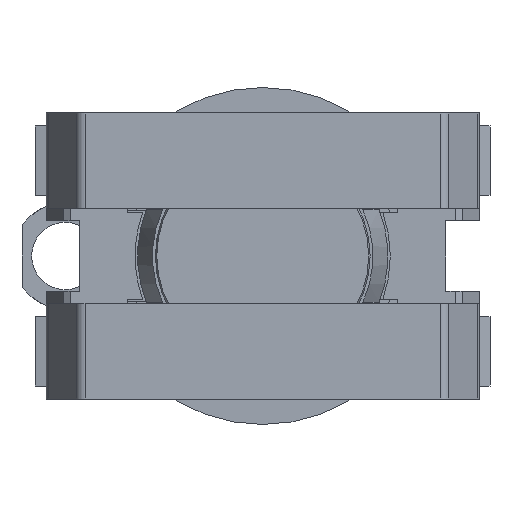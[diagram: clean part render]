
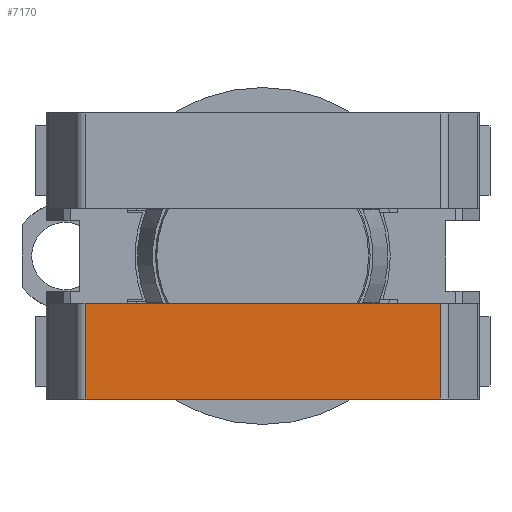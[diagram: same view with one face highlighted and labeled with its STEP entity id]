
A CAD part, front view. The second image highlights one B-rep face of the part: STEP entity #7170.
In plain terms, the highlighted planar face has unit normal (0, -1, 0).
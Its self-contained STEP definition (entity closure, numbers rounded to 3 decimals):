
#99 = DIRECTION ( 'NONE',  ( 1., 0., 0. ) ) ;
#368 = CARTESIAN_POINT ( 'NONE',  ( 18.423, -8.946, 4.95 ) ) ;
#838 = EDGE_LOOP ( 'NONE', ( #2625, #6360, #3835, #5803 ) ) ;
#965 = VECTOR ( 'NONE', #1236, 1000. ) ;
#1012 = EDGE_CURVE ( 'NONE', #5058, #7242, #4142, .T. ) ;
#1046 = EDGE_CURVE ( 'NONE', #5058, #2984, #6192, .T. ) ;
#1226 = DIRECTION ( 'NONE',  ( 0., 0., -1. ) ) ;
#1236 = DIRECTION ( 'NONE',  ( 0., 0., -1. ) ) ;
#1263 = LINE ( 'NONE', #368, #965 ) ;
#2625 = ORIENTED_EDGE ( 'NONE', *, *, #10653, .T. ) ;
#2984 = VERTEX_POINT ( 'NONE', #8246 ) ;
#3050 = VECTOR ( 'NONE', #4821, 1000. ) ;
#3141 = CARTESIAN_POINT ( 'NONE',  ( 18.423, -8.946, -4.95 ) ) ;
#3267 = DIRECTION ( 'NONE',  ( -1., 0., 0. ) ) ;
#3606 = CARTESIAN_POINT ( 'NONE',  ( -18.423, -8.946, 4.95 ) ) ;
#3835 = ORIENTED_EDGE ( 'NONE', *, *, #1046, .F. ) ;
#3889 = VECTOR ( 'NONE', #1226, 1000. ) ;
#3936 = CARTESIAN_POINT ( 'NONE',  ( -18.423, -8.946, -4.95 ) ) ;
#4142 = LINE ( 'NONE', #9909, #3889 ) ;
#4225 = CARTESIAN_POINT ( 'NONE',  ( -18.423, -8.946, -4.95 ) ) ;
#4821 = DIRECTION ( 'NONE',  ( 1., 0., 0. ) ) ;
#5058 = VERTEX_POINT ( 'NONE', #3606 ) ;
#5328 = AXIS2_PLACEMENT_3D ( 'NONE', #11092, #8501, #3267 ) ;
#5803 = ORIENTED_EDGE ( 'NONE', *, *, #1012, .T. ) ;
#6192 = LINE ( 'NONE', #10508, #7959 ) ;
#6360 = ORIENTED_EDGE ( 'NONE', *, *, #6928, .F. ) ;
#6928 = EDGE_CURVE ( 'NONE', #2984, #8880, #1263, .T. ) ;
#7170 = ADVANCED_FACE ( 'NONE', ( #7756 ), #7623, .F. ) ;
#7242 = VERTEX_POINT ( 'NONE', #4225 ) ;
#7623 = PLANE ( 'NONE',  #5328 ) ;
#7756 = FACE_OUTER_BOUND ( 'NONE', #838, .T. ) ;
#7959 = VECTOR ( 'NONE', #99, 1000. ) ;
#8246 = CARTESIAN_POINT ( 'NONE',  ( 18.423, -8.946, 4.95 ) ) ;
#8501 = DIRECTION ( 'NONE',  ( 0., 1., 0. ) ) ;
#8880 = VERTEX_POINT ( 'NONE', #3141 ) ;
#9909 = CARTESIAN_POINT ( 'NONE',  ( -18.423, -8.946, 4.95 ) ) ;
#10025 = LINE ( 'NONE', #3936, #3050 ) ;
#10508 = CARTESIAN_POINT ( 'NONE',  ( -18.423, -8.946, 4.95 ) ) ;
#10653 = EDGE_CURVE ( 'NONE', #7242, #8880, #10025, .T. ) ;
#11092 = CARTESIAN_POINT ( 'NONE',  ( -18.423, -8.946, 4.95 ) ) ;
